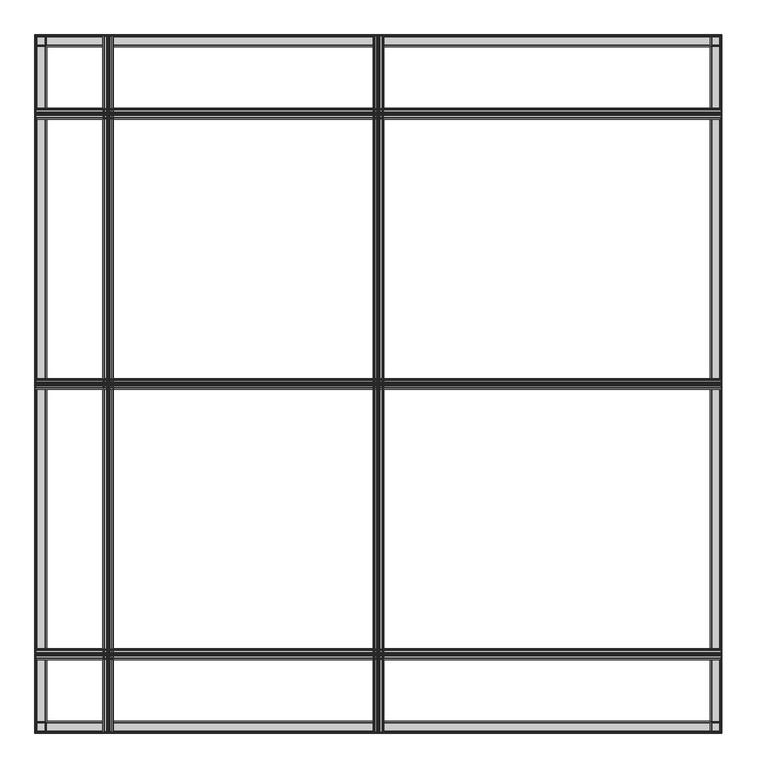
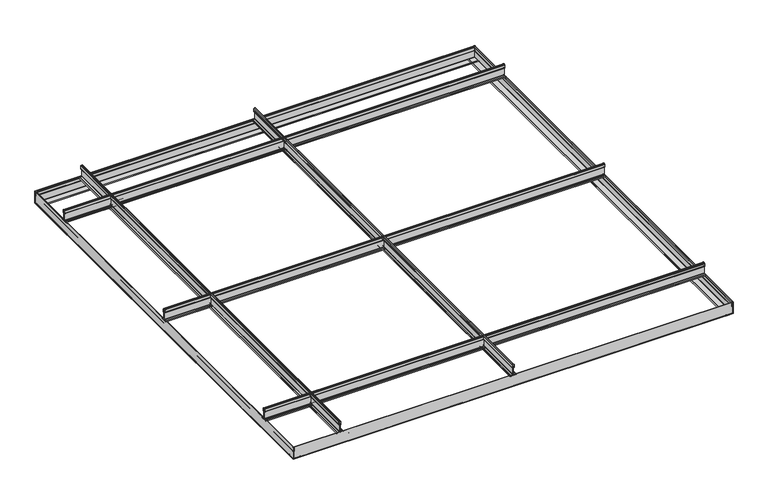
"""IFC4 building model written with IfcOpenShell, lengths in millimetres: proxy geometry, Maxxit_Highland-Ceiling_rev-01 : Maxxit_Highland-Ceiling_Quad."""

from ifc_helpers import new_model, si_unit, point, frame, frame_2d, origin, place, context, project, spatial, polyline, circle_curve, trimmed, segment, composite_curve, outline, extrude, source, transform, mapped, element, save


def generic_models_ea31196a(model_context):
    return source(origin(), model_context, "Body", "SweptSolid", [
        extrude(outline(composite_curve([segment(trimmed(circle_curve(frame_2d((1397.3521622, 27.4883115)), 1.143), [point((1397.3521622, 26.3453115))], [point((1396.2091622, 27.4883115))], False, "CARTESIAN"), True, "CONTINUOUS"), segment(trimmed(circle_curve(frame_2d((1395.0661622, 27.4883115)), 1.143), [point((1396.2091622, 27.4883115))], [point((1395.0661622, 26.3453115))], False, "CARTESIAN"), True, "CONTINUOUS"), segment(polyline([(1395.0661622, 26.3453115), (1385.8632271, 26.0290179), (1385.8632271, 27.0486923), (1394.4595431, 27.0486923)]), True, "CONTINUOUS"), segment(trimmed(circle_curve(frame_2d((1394.4595431, 28.0053766)), 0.9566843), [point((1394.4595431, 27.0486923))], [point((1395.4162274, 28.0053766))], True, "CARTESIAN"), True, "CONTINUOUS"), segment(polyline([(1395.4162274, 28.0053766), (1395.4162274, 53.7436541)]), True, "CONTINUOUS"), segment(trimmed(circle_curve(frame_2d((1394.6835556, 53.6130577)), 0.74422), [point((1395.4162274, 53.7436541))], [point((1394.7271464, 54.356))], True, "CARTESIAN"), True, "CONTINUOUS"), segment(trimmed(circle_curve(frame_2d((1394.4680297, 58.371716)), 4.0240672), [point((1394.7271464, 54.356))], [point((1393.7805705, 54.4068054))], False, "CARTESIAN"), True, "CONTINUOUS"), segment(trimmed(circle_curve(frame_2d((1394.138326, 55.7865501)), 1.4253717), [point((1393.7805705, 54.4068054))], [point((1392.7129543, 55.7865501))], False, "CARTESIAN"), True, "CONTINUOUS"), segment(polyline([(1392.7129543, 55.7865501), (1392.7129543, 64.7585942)]), True, "CONTINUOUS"), segment(trimmed(circle_curve(frame_2d((1394.7630392, 64.8150812)), 2.0508629), [point((1392.7129543, 64.7585942))], [point((1393.3128601, 66.2652603))], False, "CARTESIAN"), True, "CONTINUOUS"), segment(polyline([(1393.3128601, 66.2652603), (1395.2184323, 68.1708325)]), True, "CONTINUOUS"), segment(trimmed(circle_curve(frame_2d((1396.20625, 67.1830148)), 1.3969852), [point((1395.2184323, 68.1708325))], [point((1397.1940677, 68.1708325))], False, "CARTESIAN"), True, "CONTINUOUS"), segment(polyline([(1397.1940677, 68.1708325), (1399.0996399, 66.2652603)]), True, "CONTINUOUS"), segment(trimmed(circle_curve(frame_2d((1397.6494608, 64.8150812)), 2.0508629), [point((1399.0996399, 66.2652603))], [point((1399.6995457, 64.7585942))], False, "CARTESIAN"), True, "CONTINUOUS"), segment(polyline([(1399.6995457, 64.7585942), (1399.6995457, 55.7865501)]), True, "CONTINUOUS"), segment(trimmed(circle_curve(frame_2d((1398.274174, 55.7865501)), 1.4253717), [point((1399.6995457, 55.7865501))], [point((1398.6319295, 54.4068054))], False, "CARTESIAN"), True, "CONTINUOUS"), segment(trimmed(circle_curve(frame_2d((1397.9444703, 58.371716)), 4.0240672), [point((1398.6319295, 54.4068054))], [point((1397.6853536, 54.356))], False, "CARTESIAN"), True, "CONTINUOUS"), segment(trimmed(circle_curve(frame_2d((1397.7289444, 53.6130577)), 0.74422), [point((1397.6853536, 54.356))], [point((1397.002097, 53.7729211))], True, "CARTESIAN"), True, "CONTINUOUS"), segment(polyline([(1397.002097, 53.7729211), (1397.002097, 28.0053766)]), True, "CONTINUOUS"), segment(trimmed(circle_curve(frame_2d((1397.9587813, 28.0053766)), 0.9566843), [point((1397.002097, 28.0053766))], [point((1397.9587813, 27.0486923))], True, "CARTESIAN"), True, "CONTINUOUS"), segment(polyline([(1397.9587813, 27.0486923), (1405.7221882, 27.0486923), (1405.7221882, 26.0364605), (1397.3521622, 26.3453115)]), True, "CONTINUOUS")], self_intersect=False), holes=[composite_curve([segment(trimmed(circle_curve(frame_2d((1397.2758577, 54.058724)), 1.0922), [point((1396.20625, 54.2797221))], [point((1397.2758577, 55.150924))], False, "CARTESIAN"), True, "CONTINUOUS"), segment(polyline([(1397.2758577, 55.150924), (1398.2662785, 55.150924)]), True, "CONTINUOUS"), segment(trimmed(circle_curve(frame_2d((1398.2662785, 55.7859245)), 0.6350005), [point((1398.2662785, 55.150924))], [point((1398.901279, 55.7859245))], True, "CARTESIAN"), True, "CONTINUOUS"), segment(polyline([(1398.901279, 55.7859245), (1398.901279, 64.7585942)]), True, "CONTINUOUS"), segment(trimmed(circle_curve(frame_2d((1397.3984359, 64.7240599)), 1.5032399), [point((1398.901279, 64.7585942))], [point((1398.5383739, 65.7039943))], True, "CARTESIAN"), True, "CONTINUOUS"), segment(polyline([(1398.5383739, 65.7039943), (1396.6328017, 67.6095665)]), True, "CONTINUOUS"), segment(trimmed(circle_curve(frame_2d((1396.20625, 67.1830148)), 0.6032352), [point((1396.6328017, 67.6095665))], [point((1395.7796983, 67.6095665))], True, "CARTESIAN"), True, "CONTINUOUS"), segment(polyline([(1395.7796983, 67.6095665), (1393.8741261, 65.7039943)]), True, "CONTINUOUS"), segment(trimmed(circle_curve(frame_2d((1395.0140641, 64.7240599)), 1.5032399), [point((1393.8741261, 65.7039943))], [point((1393.511221, 64.7585942))], True, "CARTESIAN"), True, "CONTINUOUS"), segment(polyline([(1393.511221, 64.7585942), (1393.511221, 55.7859245)]), True, "CONTINUOUS"), segment(trimmed(circle_curve(frame_2d((1394.1462215, 55.7859245)), 0.6350005), [point((1393.511221, 55.7859245))], [point((1394.1462215, 55.150924))], True, "CARTESIAN"), True, "CONTINUOUS"), segment(polyline([(1394.1462215, 55.150924), (1395.1366423, 55.150924)]), True, "CONTINUOUS"), segment(trimmed(circle_curve(frame_2d((1395.1366423, 54.058724)), 1.0922), [point((1395.1366423, 55.150924))], [point((1396.20625, 54.2797221))], False, "CARTESIAN"), True, "CONTINUOUS")], self_intersect=False)]), frame((0.0, 0.0, 0.0), z_axis=(1.0, 0.0, 0.0), x_axis=(0.0, 1.0, 0.0)), (0.0, 0.0, 1.0), 1549.4),
        extrude(outline(composite_curve([segment(polyline([(1406.6419885, 25.4), (1385.7705115, 25.4)]), True, "CONTINUOUS"), segment(trimmed(circle_curve(frame_2d((1385.7705115, 26.8823557)), 1.4823557), [point((1385.7705115, 25.4))], [point((1386.1415525, 28.3175237))], False, "CARTESIAN"), True, "CONTINUOUS"), segment(polyline([(1386.1415525, 28.3175237), (1387.6677295, 27.887022), (1387.4522387, 27.123083), (1385.9360297, 27.550773)]), True, "CONTINUOUS"), segment(trimmed(circle_curve(frame_2d((1385.7705115, 26.8823557)), 0.6886057), [point((1385.9360297, 27.550773))], [point((1385.7705115, 26.19375))], True, "CARTESIAN"), True, "CONTINUOUS"), segment(polyline([(1385.7705115, 26.19375), (1406.6419885, 26.19375)]), True, "CONTINUOUS"), segment(trimmed(circle_curve(frame_2d((1406.6419885, 26.8823557)), 0.6886057), [point((1406.6419885, 26.19375))], [point((1406.4764703, 27.550773))], True, "CARTESIAN"), True, "CONTINUOUS"), segment(polyline([(1406.4764703, 27.550773), (1404.9602613, 27.123083), (1404.7447705, 27.887022), (1406.2709475, 28.3175237)]), True, "CONTINUOUS"), segment(trimmed(circle_curve(frame_2d((1406.6419885, 26.8823557)), 1.4823557), [point((1406.2709475, 28.3175237))], [point((1406.6419885, 25.4))], False, "CARTESIAN"), True, "CONTINUOUS")], self_intersect=False)), frame((0.0, 0.0, 0.0), z_axis=(1.0, 0.0, 0.0), x_axis=(0.0, 1.0, 0.0)), (0.0, 0.0, 1.0), 1549.4),
        extrude(outline(composite_curve([segment(polyline([(26.3453115, 775.8459122), (26.0364605, 784.2159382), (27.0486923, 784.2159382), (27.0486923, 776.4525313)]), True, "CONTINUOUS"), segment(trimmed(circle_curve(frame_2d((28.0053766, 776.4525313)), 0.9566843), [point((27.0486923, 776.4525313))], [point((28.0053766, 775.495847))], True, "CARTESIAN"), True, "CONTINUOUS"), segment(polyline([(28.0053766, 775.495847), (53.7729211, 775.495847)]), True, "CONTINUOUS"), segment(trimmed(circle_curve(frame_2d((53.6130577, 776.2226944)), 0.74422), [point((53.7729211, 775.495847))], [point((54.356, 776.1791036))], True, "CARTESIAN"), True, "CONTINUOUS"), segment(trimmed(circle_curve(frame_2d((58.371716, 776.4382203)), 4.0240672), [point((54.356, 776.1791036))], [point((54.4068054, 777.1256795))], False, "CARTESIAN"), True, "CONTINUOUS"), segment(trimmed(circle_curve(frame_2d((55.7865501, 776.767924)), 1.4253717), [point((54.4068054, 777.1256795))], [point((55.7865501, 778.1932957))], False, "CARTESIAN"), True, "CONTINUOUS"), segment(polyline([(55.7865501, 778.1932957), (64.7585942, 778.1932957)]), True, "CONTINUOUS"), segment(trimmed(circle_curve(frame_2d((64.8150812, 776.1432108)), 2.0508629), [point((64.7585942, 778.1932957))], [point((66.2652603, 777.5933899))], False, "CARTESIAN"), True, "CONTINUOUS"), segment(polyline([(66.2652603, 777.5933899), (68.1708325, 775.6878177)]), True, "CONTINUOUS"), segment(trimmed(circle_curve(frame_2d((67.1830148, 774.7)), 1.3969852), [point((68.1708325, 775.6878177))], [point((68.1708325, 773.7121823))], False, "CARTESIAN"), True, "CONTINUOUS"), segment(polyline([(68.1708325, 773.7121823), (66.2652603, 771.8066101)]), True, "CONTINUOUS"), segment(trimmed(circle_curve(frame_2d((64.8150812, 773.2567892)), 2.0508629), [point((66.2652603, 771.8066101))], [point((64.7585942, 771.2067043))], False, "CARTESIAN"), True, "CONTINUOUS"), segment(polyline([(64.7585942, 771.2067043), (55.7865501, 771.2067043)]), True, "CONTINUOUS"), segment(trimmed(circle_curve(frame_2d((55.7865501, 772.632076)), 1.4253717), [point((55.7865501, 771.2067043))], [point((54.4068054, 772.2743205))], False, "CARTESIAN"), True, "CONTINUOUS"), segment(trimmed(circle_curve(frame_2d((58.371716, 772.9617797)), 4.0240672), [point((54.4068054, 772.2743205))], [point((54.356, 773.2208964))], False, "CARTESIAN"), True, "CONTINUOUS"), segment(trimmed(circle_curve(frame_2d((53.6130577, 773.1773056)), 0.74422), [point((54.356, 773.2208964))], [point((53.7436541, 773.9099774))], True, "CARTESIAN"), True, "CONTINUOUS"), segment(polyline([(53.7436541, 773.9099774), (28.0053766, 773.9099774)]), True, "CONTINUOUS"), segment(trimmed(circle_curve(frame_2d((28.0053766, 772.9532931)), 0.9566843), [point((28.0053766, 773.9099774))], [point((27.0486923, 772.9532931))], True, "CARTESIAN"), True, "CONTINUOUS"), segment(polyline([(27.0486923, 772.9532931), (27.0486923, 764.3569771), (26.0290179, 764.3569771), (26.3453115, 773.5599122)]), True, "CONTINUOUS"), segment(trimmed(circle_curve(frame_2d((27.4883115, 773.5599122)), 1.143), [point((26.3453115, 773.5599122))], [point((27.4883115, 774.7029122))], False, "CARTESIAN"), True, "CONTINUOUS"), segment(trimmed(circle_curve(frame_2d((27.4883115, 775.8459122)), 1.143), [point((27.4883115, 774.7029122))], [point((26.3453115, 775.8459122))], False, "CARTESIAN"), True, "CONTINUOUS")], self_intersect=False), holes=[composite_curve([segment(trimmed(circle_curve(frame_2d((54.058724, 773.6303923)), 1.0922), [point((54.2797221, 774.7))], [point((55.150924, 773.6303923))], False, "CARTESIAN"), True, "CONTINUOUS"), segment(polyline([(55.150924, 773.6303923), (55.150924, 772.6399715)]), True, "CONTINUOUS"), segment(trimmed(circle_curve(frame_2d((55.7859245, 772.6399715)), 0.6350005), [point((55.150924, 772.6399715))], [point((55.7859245, 772.004971))], True, "CARTESIAN"), True, "CONTINUOUS"), segment(polyline([(55.7859245, 772.004971), (64.7585942, 772.004971)]), True, "CONTINUOUS"), segment(trimmed(circle_curve(frame_2d((64.7240599, 773.5078141)), 1.5032399), [point((64.7585942, 772.004971))], [point((65.7039943, 772.3678761))], True, "CARTESIAN"), True, "CONTINUOUS"), segment(polyline([(65.7039943, 772.3678761), (67.6095665, 774.2734483)]), True, "CONTINUOUS"), segment(trimmed(circle_curve(frame_2d((67.1830148, 774.7)), 0.6032352), [point((67.6095665, 774.2734483))], [point((67.6095665, 775.1265517))], True, "CARTESIAN"), True, "CONTINUOUS"), segment(polyline([(67.6095665, 775.1265517), (65.7039943, 777.0321239)]), True, "CONTINUOUS"), segment(trimmed(circle_curve(frame_2d((64.7240599, 775.8921859)), 1.5032399), [point((65.7039943, 777.0321239))], [point((64.7585942, 777.395029))], True, "CARTESIAN"), True, "CONTINUOUS"), segment(polyline([(64.7585942, 777.395029), (55.7859245, 777.395029)]), True, "CONTINUOUS"), segment(trimmed(circle_curve(frame_2d((55.7859245, 776.7600285)), 0.6350005), [point((55.7859245, 777.395029))], [point((55.150924, 776.7600285))], True, "CARTESIAN"), True, "CONTINUOUS"), segment(polyline([(55.150924, 776.7600285), (55.150924, 775.7696077)]), True, "CONTINUOUS"), segment(trimmed(circle_curve(frame_2d((54.058724, 775.7696077)), 1.0922), [point((55.150924, 775.7696077))], [point((54.2797221, 774.7))], False, "CARTESIAN"), True, "CONTINUOUS")], self_intersect=False)]), frame((0.0, -0.79375, 0.0), z_axis=(0.0, 1.0, 0.0), x_axis=(0.0, 0.0, 1.0)), (0.0, 0.0, 1.0), 1574.8),
        extrude(outline(composite_curve([segment(trimmed(circle_curve(frame_2d((26.8823557, 785.1357385)), 1.4823557), [point((25.4, 785.1357385))], [point((28.3175237, 784.7646975))], False, "CARTESIAN"), True, "CONTINUOUS"), segment(polyline([(28.3175237, 784.7646975), (27.887022, 783.2385205), (27.123083, 783.4540113), (27.550773, 784.9702203)]), True, "CONTINUOUS"), segment(trimmed(circle_curve(frame_2d((26.8823557, 785.1357385)), 0.6886057), [point((27.550773, 784.9702203))], [point((26.19375, 785.1357385))], True, "CARTESIAN"), True, "CONTINUOUS"), segment(polyline([(26.19375, 785.1357385), (26.19375, 764.2642615)]), True, "CONTINUOUS"), segment(trimmed(circle_curve(frame_2d((26.8823557, 764.2642615)), 0.6886057), [point((26.19375, 764.2642615))], [point((27.550773, 764.4297797))], True, "CARTESIAN"), True, "CONTINUOUS"), segment(polyline([(27.550773, 764.4297797), (27.123083, 765.9459887), (27.887022, 766.1614795), (28.3175237, 764.6353025)]), True, "CONTINUOUS"), segment(trimmed(circle_curve(frame_2d((26.8823557, 764.2642615)), 1.4823557), [point((28.3175237, 764.6353025))], [point((25.4, 764.2642615))], False, "CARTESIAN"), True, "CONTINUOUS"), segment(polyline([(25.4, 764.2642615), (25.4, 785.1357385)]), True, "CONTINUOUS")], self_intersect=False)), frame((0.0, -0.79375, 0.0), z_axis=(0.0, 1.0, 0.0), x_axis=(0.0, 0.0, 1.0)), (0.0, 0.0, 1.0), 1574.8),
        extrude(outline(composite_curve([segment(trimmed(circle_curve(frame_2d((787.7521622, 27.4883115)), 1.143), [point((787.7521622, 26.3453115))], [point((786.6091622, 27.4883115))], False, "CARTESIAN"), True, "CONTINUOUS"), segment(trimmed(circle_curve(frame_2d((785.4661622, 27.4883115)), 1.143), [point((786.6091622, 27.4883115))], [point((785.4661622, 26.3453115))], False, "CARTESIAN"), True, "CONTINUOUS"), segment(polyline([(785.4661622, 26.3453115), (776.2632271, 26.0290179), (776.2632271, 27.0486923), (784.8595431, 27.0486923)]), True, "CONTINUOUS"), segment(trimmed(circle_curve(frame_2d((784.8595431, 28.0053766)), 0.9566843), [point((784.8595431, 27.0486923))], [point((785.8162274, 28.0053766))], True, "CARTESIAN"), True, "CONTINUOUS"), segment(polyline([(785.8162274, 28.0053766), (785.8162274, 53.7436541)]), True, "CONTINUOUS"), segment(trimmed(circle_curve(frame_2d((785.0835556, 53.6130577)), 0.74422), [point((785.8162274, 53.7436541))], [point((785.1271464, 54.356))], True, "CARTESIAN"), True, "CONTINUOUS"), segment(trimmed(circle_curve(frame_2d((784.8680297, 58.371716)), 4.0240672), [point((785.1271464, 54.356))], [point((784.1805705, 54.4068054))], False, "CARTESIAN"), True, "CONTINUOUS"), segment(trimmed(circle_curve(frame_2d((784.538326, 55.7865501)), 1.4253717), [point((784.1805705, 54.4068054))], [point((783.1129543, 55.7865501))], False, "CARTESIAN"), True, "CONTINUOUS"), segment(polyline([(783.1129543, 55.7865501), (783.1129543, 64.7585942)]), True, "CONTINUOUS"), segment(trimmed(circle_curve(frame_2d((785.1630392, 64.8150812)), 2.0508629), [point((783.1129543, 64.7585942))], [point((783.7128601, 66.2652603))], False, "CARTESIAN"), True, "CONTINUOUS"), segment(polyline([(783.7128601, 66.2652603), (785.6184323, 68.1708325)]), True, "CONTINUOUS"), segment(trimmed(circle_curve(frame_2d((786.60625, 67.1830148)), 1.3969852), [point((785.6184323, 68.1708325))], [point((787.5940677, 68.1708325))], False, "CARTESIAN"), True, "CONTINUOUS"), segment(polyline([(787.5940677, 68.1708325), (789.4996399, 66.2652603)]), True, "CONTINUOUS"), segment(trimmed(circle_curve(frame_2d((788.0494608, 64.8150812)), 2.0508629), [point((789.4996399, 66.2652603))], [point((790.0995457, 64.7585942))], False, "CARTESIAN"), True, "CONTINUOUS"), segment(polyline([(790.0995457, 64.7585942), (790.0995457, 55.7865501)]), True, "CONTINUOUS"), segment(trimmed(circle_curve(frame_2d((788.674174, 55.7865501)), 1.4253717), [point((790.0995457, 55.7865501))], [point((789.0319295, 54.4068054))], False, "CARTESIAN"), True, "CONTINUOUS"), segment(trimmed(circle_curve(frame_2d((788.3444703, 58.371716)), 4.0240672), [point((789.0319295, 54.4068054))], [point((788.0853536, 54.356))], False, "CARTESIAN"), True, "CONTINUOUS"), segment(trimmed(circle_curve(frame_2d((788.1289444, 53.6130577)), 0.74422), [point((788.0853536, 54.356))], [point((787.402097, 53.7729211))], True, "CARTESIAN"), True, "CONTINUOUS"), segment(polyline([(787.402097, 53.7729211), (787.402097, 28.0053766)]), True, "CONTINUOUS"), segment(trimmed(circle_curve(frame_2d((788.3587813, 28.0053766)), 0.9566843), [point((787.402097, 28.0053766))], [point((788.3587813, 27.0486923))], True, "CARTESIAN"), True, "CONTINUOUS"), segment(polyline([(788.3587813, 27.0486923), (796.1221882, 27.0486923), (796.1221882, 26.0364605), (787.7521622, 26.3453115)]), True, "CONTINUOUS")], self_intersect=False), holes=[composite_curve([segment(trimmed(circle_curve(frame_2d((787.6758577, 54.058724)), 1.0922), [point((786.60625, 54.2797221))], [point((787.6758577, 55.150924))], False, "CARTESIAN"), True, "CONTINUOUS"), segment(polyline([(787.6758577, 55.150924), (788.6662785, 55.150924)]), True, "CONTINUOUS"), segment(trimmed(circle_curve(frame_2d((788.6662785, 55.7859245)), 0.6350005), [point((788.6662785, 55.150924))], [point((789.301279, 55.7859245))], True, "CARTESIAN"), True, "CONTINUOUS"), segment(polyline([(789.301279, 55.7859245), (789.301279, 64.7585942)]), True, "CONTINUOUS"), segment(trimmed(circle_curve(frame_2d((787.7984359, 64.7240599)), 1.5032399), [point((789.301279, 64.7585942))], [point((788.9383739, 65.7039943))], True, "CARTESIAN"), True, "CONTINUOUS"), segment(polyline([(788.9383739, 65.7039943), (787.0328017, 67.6095665)]), True, "CONTINUOUS"), segment(trimmed(circle_curve(frame_2d((786.60625, 67.1830148)), 0.6032352), [point((787.0328017, 67.6095665))], [point((786.1796983, 67.6095665))], True, "CARTESIAN"), True, "CONTINUOUS"), segment(polyline([(786.1796983, 67.6095665), (784.2741261, 65.7039943)]), True, "CONTINUOUS"), segment(trimmed(circle_curve(frame_2d((785.4140641, 64.7240599)), 1.5032399), [point((784.2741261, 65.7039943))], [point((783.911221, 64.7585942))], True, "CARTESIAN"), True, "CONTINUOUS"), segment(polyline([(783.911221, 64.7585942), (783.911221, 55.7859245)]), True, "CONTINUOUS"), segment(trimmed(circle_curve(frame_2d((784.5462215, 55.7859245)), 0.6350005), [point((783.911221, 55.7859245))], [point((784.5462215, 55.150924))], True, "CARTESIAN"), True, "CONTINUOUS"), segment(polyline([(784.5462215, 55.150924), (785.5366423, 55.150924)]), True, "CONTINUOUS"), segment(trimmed(circle_curve(frame_2d((785.5366423, 54.058724)), 1.0922), [point((785.5366423, 55.150924))], [point((786.60625, 54.2797221))], False, "CARTESIAN"), True, "CONTINUOUS")], self_intersect=False)]), frame((0.0, 0.0, 0.0), z_axis=(1.0, 0.0, 0.0), x_axis=(0.0, 1.0, 0.0)), (0.0, 0.0, 1.0), 1549.4),
        extrude(outline(composite_curve([segment(polyline([(797.0419885, 25.4), (776.1705115, 25.4)]), True, "CONTINUOUS"), segment(trimmed(circle_curve(frame_2d((776.1705115, 26.8823557)), 1.4823557), [point((776.1705115, 25.4))], [point((776.5415525, 28.3175237))], False, "CARTESIAN"), True, "CONTINUOUS"), segment(polyline([(776.5415525, 28.3175237), (778.0677295, 27.887022), (777.8522387, 27.123083), (776.3360297, 27.550773)]), True, "CONTINUOUS"), segment(trimmed(circle_curve(frame_2d((776.1705115, 26.8823557)), 0.6886057), [point((776.3360297, 27.550773))], [point((776.1705115, 26.19375))], True, "CARTESIAN"), True, "CONTINUOUS"), segment(polyline([(776.1705115, 26.19375), (797.0419885, 26.19375)]), True, "CONTINUOUS"), segment(trimmed(circle_curve(frame_2d((797.0419885, 26.8823557)), 0.6886057), [point((797.0419885, 26.19375))], [point((796.8764703, 27.550773))], True, "CARTESIAN"), True, "CONTINUOUS"), segment(polyline([(796.8764703, 27.550773), (795.3602613, 27.123083), (795.1447705, 27.887022), (796.6709475, 28.3175237)]), True, "CONTINUOUS"), segment(trimmed(circle_curve(frame_2d((797.0419885, 26.8823557)), 1.4823557), [point((796.6709475, 28.3175237))], [point((797.0419885, 25.4))], False, "CARTESIAN"), True, "CONTINUOUS")], self_intersect=False)), frame((0.0, 0.0, 0.0), z_axis=(1.0, 0.0, 0.0), x_axis=(0.0, 1.0, 0.0)), (0.0, 0.0, 1.0), 1549.4),
        extrude(outline(composite_curve([segment(trimmed(circle_curve(frame_2d((178.1521622, 27.4883115)), 1.143), [point((178.1521622, 26.3453115))], [point((177.0091622, 27.4883115))], False, "CARTESIAN"), True, "CONTINUOUS"), segment(trimmed(circle_curve(frame_2d((175.8661622, 27.4883115)), 1.143), [point((177.0091622, 27.4883115))], [point((175.8661622, 26.3453115))], False, "CARTESIAN"), True, "CONTINUOUS"), segment(polyline([(175.8661622, 26.3453115), (166.6632271, 26.0290179), (166.6632271, 27.0486923), (175.2595431, 27.0486923)]), True, "CONTINUOUS"), segment(trimmed(circle_curve(frame_2d((175.2595431, 28.0053766)), 0.9566843), [point((175.2595431, 27.0486923))], [point((176.2162274, 28.0053766))], True, "CARTESIAN"), True, "CONTINUOUS"), segment(polyline([(176.2162274, 28.0053766), (176.2162274, 53.7436541)]), True, "CONTINUOUS"), segment(trimmed(circle_curve(frame_2d((175.4835556, 53.6130577)), 0.74422), [point((176.2162274, 53.7436541))], [point((175.5271464, 54.356))], True, "CARTESIAN"), True, "CONTINUOUS"), segment(trimmed(circle_curve(frame_2d((175.2680297, 58.371716)), 4.0240672), [point((175.5271464, 54.356))], [point((174.5805705, 54.4068054))], False, "CARTESIAN"), True, "CONTINUOUS"), segment(trimmed(circle_curve(frame_2d((174.938326, 55.7865501)), 1.4253717), [point((174.5805705, 54.4068054))], [point((173.5129543, 55.7865501))], False, "CARTESIAN"), True, "CONTINUOUS"), segment(polyline([(173.5129543, 55.7865501), (173.5129543, 64.7585942)]), True, "CONTINUOUS"), segment(trimmed(circle_curve(frame_2d((175.5630392, 64.8150812)), 2.0508629), [point((173.5129543, 64.7585942))], [point((174.1128601, 66.2652603))], False, "CARTESIAN"), True, "CONTINUOUS"), segment(polyline([(174.1128601, 66.2652603), (176.0184323, 68.1708325)]), True, "CONTINUOUS"), segment(trimmed(circle_curve(frame_2d((177.00625, 67.1830148)), 1.3969852), [point((176.0184323, 68.1708325))], [point((177.9940677, 68.1708325))], False, "CARTESIAN"), True, "CONTINUOUS"), segment(polyline([(177.9940677, 68.1708325), (179.8996399, 66.2652603)]), True, "CONTINUOUS"), segment(trimmed(circle_curve(frame_2d((178.4494608, 64.8150812)), 2.0508629), [point((179.8996399, 66.2652603))], [point((180.4995457, 64.7585942))], False, "CARTESIAN"), True, "CONTINUOUS"), segment(polyline([(180.4995457, 64.7585942), (180.4995457, 55.7865501)]), True, "CONTINUOUS"), segment(trimmed(circle_curve(frame_2d((179.074174, 55.7865501)), 1.4253717), [point((180.4995457, 55.7865501))], [point((179.4319295, 54.4068054))], False, "CARTESIAN"), True, "CONTINUOUS"), segment(trimmed(circle_curve(frame_2d((178.7444703, 58.371716)), 4.0240672), [point((179.4319295, 54.4068054))], [point((178.4853536, 54.356))], False, "CARTESIAN"), True, "CONTINUOUS"), segment(trimmed(circle_curve(frame_2d((178.5289444, 53.6130577)), 0.74422), [point((178.4853536, 54.356))], [point((177.802097, 53.7729211))], True, "CARTESIAN"), True, "CONTINUOUS"), segment(polyline([(177.802097, 53.7729211), (177.802097, 28.0053766)]), True, "CONTINUOUS"), segment(trimmed(circle_curve(frame_2d((178.7587813, 28.0053766)), 0.9566843), [point((177.802097, 28.0053766))], [point((178.7587813, 27.0486923))], True, "CARTESIAN"), True, "CONTINUOUS"), segment(polyline([(178.7587813, 27.0486923), (186.5221882, 27.0486923), (186.5221882, 26.0364605), (178.1521622, 26.3453115)]), True, "CONTINUOUS")], self_intersect=False), holes=[composite_curve([segment(trimmed(circle_curve(frame_2d((178.0758577, 54.058724)), 1.0922), [point((177.00625, 54.2797221))], [point((178.0758577, 55.150924))], False, "CARTESIAN"), True, "CONTINUOUS"), segment(polyline([(178.0758577, 55.150924), (179.0662785, 55.150924)]), True, "CONTINUOUS"), segment(trimmed(circle_curve(frame_2d((179.0662785, 55.7859245)), 0.6350005), [point((179.0662785, 55.150924))], [point((179.701279, 55.7859245))], True, "CARTESIAN"), True, "CONTINUOUS"), segment(polyline([(179.701279, 55.7859245), (179.701279, 64.7585942)]), True, "CONTINUOUS"), segment(trimmed(circle_curve(frame_2d((178.1984359, 64.7240599)), 1.5032399), [point((179.701279, 64.7585942))], [point((179.3383739, 65.7039943))], True, "CARTESIAN"), True, "CONTINUOUS"), segment(polyline([(179.3383739, 65.7039943), (177.4328017, 67.6095665)]), True, "CONTINUOUS"), segment(trimmed(circle_curve(frame_2d((177.00625, 67.1830148)), 0.6032352), [point((177.4328017, 67.6095665))], [point((176.5796983, 67.6095665))], True, "CARTESIAN"), True, "CONTINUOUS"), segment(polyline([(176.5796983, 67.6095665), (174.6741261, 65.7039943)]), True, "CONTINUOUS"), segment(trimmed(circle_curve(frame_2d((175.8140641, 64.7240599)), 1.5032399), [point((174.6741261, 65.7039943))], [point((174.311221, 64.7585942))], True, "CARTESIAN"), True, "CONTINUOUS"), segment(polyline([(174.311221, 64.7585942), (174.311221, 55.7859245)]), True, "CONTINUOUS"), segment(trimmed(circle_curve(frame_2d((174.9462215, 55.7859245)), 0.6350005), [point((174.311221, 55.7859245))], [point((174.9462215, 55.150924))], True, "CARTESIAN"), True, "CONTINUOUS"), segment(polyline([(174.9462215, 55.150924), (175.9366423, 55.150924)]), True, "CONTINUOUS"), segment(trimmed(circle_curve(frame_2d((175.9366423, 54.058724)), 1.0922), [point((175.9366423, 55.150924))], [point((177.00625, 54.2797221))], False, "CARTESIAN"), True, "CONTINUOUS")], self_intersect=False)]), frame((0.0, 0.0, 0.0), z_axis=(1.0, 0.0, 0.0), x_axis=(0.0, 1.0, 0.0)), (0.0, 0.0, 1.0), 1549.4),
        extrude(outline(composite_curve([segment(polyline([(187.4419885, 25.4), (166.5705115, 25.4)]), True, "CONTINUOUS"), segment(trimmed(circle_curve(frame_2d((166.5705115, 26.8823557)), 1.4823557), [point((166.5705115, 25.4))], [point((166.9415525, 28.3175237))], False, "CARTESIAN"), True, "CONTINUOUS"), segment(polyline([(166.9415525, 28.3175237), (168.4677295, 27.887022), (168.2522387, 27.123083), (166.7360297, 27.550773)]), True, "CONTINUOUS"), segment(trimmed(circle_curve(frame_2d((166.5705115, 26.8823557)), 0.6886057), [point((166.7360297, 27.550773))], [point((166.5705115, 26.19375))], True, "CARTESIAN"), True, "CONTINUOUS"), segment(polyline([(166.5705115, 26.19375), (187.4419885, 26.19375)]), True, "CONTINUOUS"), segment(trimmed(circle_curve(frame_2d((187.4419885, 26.8823557)), 0.6886057), [point((187.4419885, 26.19375))], [point((187.2764703, 27.550773))], True, "CARTESIAN"), True, "CONTINUOUS"), segment(polyline([(187.2764703, 27.550773), (185.7602613, 27.123083), (185.5447705, 27.887022), (187.0709475, 28.3175237)]), True, "CONTINUOUS"), segment(trimmed(circle_curve(frame_2d((187.4419885, 26.8823557)), 1.4823557), [point((187.0709475, 28.3175237))], [point((187.4419885, 25.4))], False, "CARTESIAN"), True, "CONTINUOUS")], self_intersect=False)), frame((0.0, 0.0, 0.0), z_axis=(1.0, 0.0, 0.0), x_axis=(0.0, 1.0, 0.0)), (0.0, 0.0, 1.0), 1549.4),
        extrude(outline(composite_curve([segment(polyline([(-14.9820313, 1549.3700026), (-14.1882813, 1549.3700026), (-14.1882813, 1524.6746645)]), True, "CONTINUOUS"), segment(trimmed(circle_curve(frame_2d((-13.4996755, 1524.6746645)), 0.6886057), [point((-14.1882813, 1524.6746645))], [point((-12.8312583, 1524.8401827))], True, "CARTESIAN"), True, "CONTINUOUS"), segment(polyline([(-12.8312583, 1524.8401827), (-13.2589482, 1526.3563917), (-12.4950092, 1526.5718825), (-12.0645075, 1525.0457055)]), True, "CONTINUOUS"), segment(trimmed(circle_curve(frame_2d((-13.4996755, 1524.6746645)), 1.4823557), [point((-12.0645075, 1525.0457055))], [point((-14.9820313, 1524.6746645))], False, "CARTESIAN"), True, "CONTINUOUS"), segment(polyline([(-14.9820313, 1524.6746645), (-14.9820313, 1549.3700026)]), True, "CONTINUOUS")], self_intersect=False)), frame((0.0, -0.79375, 0.0), z_axis=(0.0, 1.0, 0.0), x_axis=(0.0, 0.0, 1.0)), (0.0, 0.0, 1.0), 1574.8),
        extrude(outline(composite_curve([segment(trimmed(circle_curve(frame_2d((26.9918874, 1548.604153)), 1.3969852), [point((28.1400142, 1549.4))], [point((27.9797051, 1547.6163353))], False, "CARTESIAN"), True, "CONTINUOUS"), segment(polyline([(27.9797051, 1547.6163353), (26.0741329, 1545.7107631)]), True, "CONTINUOUS"), segment(trimmed(circle_curve(frame_2d((24.6239538, 1547.1609422)), 2.0508629), [point((26.0741329, 1545.7107631))], [point((24.5674668, 1545.1108573))], False, "CARTESIAN"), True, "CONTINUOUS"), segment(polyline([(24.5674668, 1545.1108573), (14.4241684, 1545.1108573)]), True, "CONTINUOUS"), segment(trimmed(circle_curve(frame_2d((14.4241684, 1546.536229)), 1.4253717), [point((14.4241684, 1545.1108573))], [point((13.0444237, 1546.1784735))], False, "CARTESIAN"), True, "CONTINUOUS"), segment(trimmed(circle_curve(frame_2d((17.0093343, 1546.8659327)), 4.0240672), [point((13.0444237, 1546.1784735))], [point((12.9936183, 1547.1250494))], False, "CARTESIAN"), True, "CONTINUOUS"), segment(trimmed(circle_curve(frame_2d((12.250676, 1547.0814586)), 0.74422), [point((12.9936183, 1547.1250494))], [point((12.3812724, 1547.8141304))], True, "CARTESIAN"), True, "CONTINUOUS"), segment(polyline([(12.3812724, 1547.8141304), (-12.3766547, 1547.8141304)]), True, "CONTINUOUS"), segment(trimmed(circle_curve(frame_2d((-12.3766547, 1546.8574461)), 0.9566843), [point((-12.3766547, 1547.8141304))], [point((-13.333339, 1546.8574461))], True, "CARTESIAN"), True, "CONTINUOUS"), segment(polyline([(-13.333339, 1546.8574461), (-13.333339, 1524.7673801), (-14.3530133, 1524.7673801), (-14.0306827, 1548.1396787)]), True, "CONTINUOUS"), segment(trimmed(circle_curve(frame_2d((-12.8937197, 1548.257)), 1.143), [point((-14.0306827, 1548.1396787))], [point((-12.8937197, 1549.4))], False, "CARTESIAN"), True, "CONTINUOUS"), segment(polyline([(-12.8937197, 1549.4), (28.1400142, 1549.4)]), True, "CONTINUOUS")], self_intersect=False), holes=[composite_curve([segment(trimmed(circle_curve(frame_2d((14.4235428, 1547.9667328)), 0.6350005), [point((14.4235428, 1548.6017333))], [point((13.7885423, 1547.9667328))], True, "CARTESIAN"), True, "CONTINUOUS"), segment(polyline([(13.7885423, 1547.9667328), (13.7885423, 1546.5441244)]), True, "CONTINUOUS"), segment(trimmed(circle_curve(frame_2d((14.4235428, 1546.5441244)), 0.6350005), [point((13.7885423, 1546.5441244))], [point((14.4235428, 1545.909124))], True, "CARTESIAN"), True, "CONTINUOUS"), segment(polyline([(14.4235428, 1545.909124), (24.5674668, 1545.909124)]), True, "CONTINUOUS"), segment(trimmed(circle_curve(frame_2d((24.5329325, 1547.4119671)), 1.5032399), [point((24.5674668, 1545.909124))], [point((25.5128669, 1546.2720291))], True, "CARTESIAN"), True, "CONTINUOUS"), segment(polyline([(25.5128669, 1546.2720291), (27.8425711, 1548.6017333), (14.4235428, 1548.6017333)]), True, "CONTINUOUS")], self_intersect=False)]), frame((0.0, -0.79375, 0.0), z_axis=(0.0, 1.0, 0.0), x_axis=(0.0, 0.0, 1.0)), (0.0, 0.0, 1.0), 1574.8),
        extrude(outline(composite_curve([segment(polyline([(1573.9762526, -14.9820313), (1549.2809145, -14.9820313)]), True, "CONTINUOUS"), segment(trimmed(circle_curve(frame_2d((1549.2809145, -13.4996755)), 1.4823557), [point((1549.2809145, -14.9820313))], [point((1549.6519555, -12.0645075))], False, "CARTESIAN"), True, "CONTINUOUS"), segment(polyline([(1549.6519555, -12.0645075), (1551.1781325, -12.4950092), (1550.9626417, -13.2589482), (1549.4464327, -12.8312583)]), True, "CONTINUOUS"), segment(trimmed(circle_curve(frame_2d((1549.2809145, -13.4996755)), 0.6886057), [point((1549.4464327, -12.8312583))], [point((1549.2809145, -14.1882813))], True, "CARTESIAN"), True, "CONTINUOUS"), segment(polyline([(1549.2809145, -14.1882813), (1573.9762526, -14.1882813), (1573.9762526, -14.9820313)]), True, "CONTINUOUS")], self_intersect=False)), frame((0.0, 0.0, 0.0), z_axis=(1.0, 0.0, 0.0), x_axis=(0.0, 1.0, 0.0)), (0.0, 0.0, 1.0), 1549.4),
        extrude(outline(composite_curve([segment(polyline([(1574.00625, 28.1400142), (1574.00625, -12.8937197)]), True, "CONTINUOUS"), segment(trimmed(circle_curve(frame_2d((1572.86325, -12.8937197)), 1.143), [point((1574.00625, -12.8937197))], [point((1572.7459287, -14.0306827))], False, "CARTESIAN"), True, "CONTINUOUS"), segment(polyline([(1572.7459287, -14.0306827), (1549.3736301, -14.3530133), (1549.3736301, -13.333339), (1571.4636961, -13.333339)]), True, "CONTINUOUS"), segment(trimmed(circle_curve(frame_2d((1571.4636961, -12.3766547)), 0.9566843), [point((1571.4636961, -13.333339))], [point((1572.4203804, -12.3766547))], True, "CARTESIAN"), True, "CONTINUOUS"), segment(polyline([(1572.4203804, -12.3766547), (1572.4203804, 12.3812724)]), True, "CONTINUOUS"), segment(trimmed(circle_curve(frame_2d((1571.6877086, 12.250676)), 0.74422), [point((1572.4203804, 12.3812724))], [point((1571.7312994, 12.9936183))], True, "CARTESIAN"), True, "CONTINUOUS"), segment(trimmed(circle_curve(frame_2d((1571.4721827, 17.0093343)), 4.0240672), [point((1571.7312994, 12.9936183))], [point((1570.7847235, 13.0444237))], False, "CARTESIAN"), True, "CONTINUOUS"), segment(trimmed(circle_curve(frame_2d((1571.142479, 14.4241684)), 1.4253717), [point((1570.7847235, 13.0444237))], [point((1569.7171073, 14.4241684))], False, "CARTESIAN"), True, "CONTINUOUS"), segment(polyline([(1569.7171073, 14.4241684), (1569.7171073, 24.5674668)]), True, "CONTINUOUS"), segment(trimmed(circle_curve(frame_2d((1571.7671922, 24.6239538)), 2.0508629), [point((1569.7171073, 24.5674668))], [point((1570.3170131, 26.0741329))], False, "CARTESIAN"), True, "CONTINUOUS"), segment(polyline([(1570.3170131, 26.0741329), (1572.2225853, 27.9797051)]), True, "CONTINUOUS"), segment(trimmed(circle_curve(frame_2d((1573.210403, 26.9918874)), 1.3969852), [point((1572.2225853, 27.9797051))], [point((1574.00625, 28.1400142))], False, "CARTESIAN"), True, "CONTINUOUS")], self_intersect=False), holes=[composite_curve([segment(polyline([(1573.2079833, 14.4235428), (1573.2079833, 27.8425711), (1570.8782791, 25.5128669)]), True, "CONTINUOUS"), segment(trimmed(circle_curve(frame_2d((1572.0182171, 24.5329325)), 1.5032399), [point((1570.8782791, 25.5128669))], [point((1570.515374, 24.5674668))], True, "CARTESIAN"), True, "CONTINUOUS"), segment(polyline([(1570.515374, 24.5674668), (1570.515374, 14.4235428)]), True, "CONTINUOUS"), segment(trimmed(circle_curve(frame_2d((1571.1503744, 14.4235428)), 0.6350005), [point((1570.515374, 14.4235428))], [point((1571.1503744, 13.7885423))], True, "CARTESIAN"), True, "CONTINUOUS"), segment(polyline([(1571.1503744, 13.7885423), (1572.5729828, 13.7885423)]), True, "CONTINUOUS"), segment(trimmed(circle_curve(frame_2d((1572.5729828, 14.4235428)), 0.6350005), [point((1572.5729828, 13.7885423))], [point((1573.2079833, 14.4235428))], True, "CARTESIAN"), True, "CONTINUOUS")], self_intersect=False)]), frame((0.0, 0.0, 0.0), z_axis=(1.0, 0.0, 0.0), x_axis=(0.0, 1.0, 0.0)), (0.0, 0.0, 1.0), 1549.4),
        extrude(outline(composite_curve([segment(polyline([(-14.9820313, 0.0299974), (-14.9820313, 24.7253355)]), True, "CONTINUOUS"), segment(trimmed(circle_curve(frame_2d((-13.4996755, 24.7253355)), 1.4823557), [point((-14.9820313, 24.7253355))], [point((-12.0645075, 24.3542945))], False, "CARTESIAN"), True, "CONTINUOUS"), segment(polyline([(-12.0645075, 24.3542945), (-12.4950092, 22.8281175), (-13.2589482, 23.0436083), (-12.8312583, 24.5598173)]), True, "CONTINUOUS"), segment(trimmed(circle_curve(frame_2d((-13.4996755, 24.7253355)), 0.6886057), [point((-12.8312583, 24.5598173))], [point((-14.1882813, 24.7253355))], True, "CARTESIAN"), True, "CONTINUOUS"), segment(polyline([(-14.1882813, 24.7253355), (-14.1882813, 0.0299974), (-14.9820313, 0.0299974)]), True, "CONTINUOUS")], self_intersect=False)), frame((0.0, -0.79375, 0.0), z_axis=(0.0, 1.0, 0.0), x_axis=(0.0, 0.0, 1.0)), (0.0, 0.0, 1.0), 1574.8),
        extrude(outline(composite_curve([segment(polyline([(28.1400142, 0.0), (-12.8937197, 0.0)]), True, "CONTINUOUS"), segment(trimmed(circle_curve(frame_2d((-12.8937197, 1.143)), 1.143), [point((-12.8937197, 0.0))], [point((-14.0306827, 1.2603213))], False, "CARTESIAN"), True, "CONTINUOUS"), segment(polyline([(-14.0306827, 1.2603213), (-14.3530133, 24.6326199), (-13.333339, 24.6326199), (-13.333339, 2.5425539)]), True, "CONTINUOUS"), segment(trimmed(circle_curve(frame_2d((-12.3766547, 2.5425539)), 0.9566843), [point((-13.333339, 2.5425539))], [point((-12.3766547, 1.5858696))], True, "CARTESIAN"), True, "CONTINUOUS"), segment(polyline([(-12.3766547, 1.5858696), (12.3812724, 1.5858696)]), True, "CONTINUOUS"), segment(trimmed(circle_curve(frame_2d((12.250676, 2.3185414)), 0.74422), [point((12.3812724, 1.5858696))], [point((12.9936183, 2.2749506))], True, "CARTESIAN"), True, "CONTINUOUS"), segment(trimmed(circle_curve(frame_2d((17.0093343, 2.5340673)), 4.0240672), [point((12.9936183, 2.2749506))], [point((13.0444237, 3.2215265))], False, "CARTESIAN"), True, "CONTINUOUS"), segment(trimmed(circle_curve(frame_2d((14.4241684, 2.863771)), 1.4253717), [point((13.0444237, 3.2215265))], [point((14.4241684, 4.2891427))], False, "CARTESIAN"), True, "CONTINUOUS"), segment(polyline([(14.4241684, 4.2891427), (24.5674668, 4.2891427)]), True, "CONTINUOUS"), segment(trimmed(circle_curve(frame_2d((24.6239538, 2.2390578)), 2.0508629), [point((24.5674668, 4.2891427))], [point((26.0741329, 3.6892369))], False, "CARTESIAN"), True, "CONTINUOUS"), segment(polyline([(26.0741329, 3.6892369), (27.9797051, 1.7836647)]), True, "CONTINUOUS"), segment(trimmed(circle_curve(frame_2d((26.9918874, 0.795847)), 1.3969852), [point((27.9797051, 1.7836647))], [point((28.1400142, 0.0))], False, "CARTESIAN"), True, "CONTINUOUS")], self_intersect=False), holes=[composite_curve([segment(polyline([(14.4235428, 0.7982667), (27.8425711, 0.7982667), (25.5128669, 3.1279709)]), True, "CONTINUOUS"), segment(trimmed(circle_curve(frame_2d((24.5329325, 1.9880329)), 1.5032399), [point((25.5128669, 3.1279709))], [point((24.5674668, 3.490876))], True, "CARTESIAN"), True, "CONTINUOUS"), segment(polyline([(24.5674668, 3.490876), (14.4235428, 3.490876)]), True, "CONTINUOUS"), segment(trimmed(circle_curve(frame_2d((14.4235428, 2.8558756)), 0.6350005), [point((14.4235428, 3.490876))], [point((13.7885423, 2.8558756))], True, "CARTESIAN"), True, "CONTINUOUS"), segment(polyline([(13.7885423, 2.8558756), (13.7885423, 1.4332672)]), True, "CONTINUOUS"), segment(trimmed(circle_curve(frame_2d((14.4235428, 1.4332672)), 0.6350005), [point((13.7885423, 1.4332672))], [point((14.4235428, 0.7982667))], True, "CARTESIAN"), True, "CONTINUOUS")], self_intersect=False)]), frame((0.0, -0.79375, 0.0), z_axis=(0.0, 1.0, 0.0), x_axis=(0.0, 0.0, 1.0)), (0.0, 0.0, 1.0), 1574.8),
        extrude(outline(composite_curve([segment(polyline([(-0.7637526, -14.9820313), (-0.7637526, -14.1882813), (23.9315855, -14.1882813)]), True, "CONTINUOUS"), segment(trimmed(circle_curve(frame_2d((23.9315855, -13.4996755)), 0.6886057), [point((23.9315855, -14.1882813))], [point((23.7660673, -12.8312583))], True, "CARTESIAN"), True, "CONTINUOUS"), segment(polyline([(23.7660673, -12.8312583), (22.2498583, -13.2589482), (22.0343675, -12.4950092), (23.5605445, -12.0645075)]), True, "CONTINUOUS"), segment(trimmed(circle_curve(frame_2d((23.9315855, -13.4996755)), 1.4823557), [point((23.5605445, -12.0645075))], [point((23.9315855, -14.9820313))], False, "CARTESIAN"), True, "CONTINUOUS"), segment(polyline([(23.9315855, -14.9820313), (-0.7637526, -14.9820313)]), True, "CONTINUOUS")], self_intersect=False)), frame((0.0, 0.0, 0.0), z_axis=(1.0, 0.0, 0.0), x_axis=(0.0, 1.0, 0.0)), (0.0, 0.0, 1.0), 1549.4),
        extrude(outline(composite_curve([segment(trimmed(circle_curve(frame_2d((0.002097, 26.9918874)), 1.3969852), [point((-0.79375, 28.1400142))], [point((0.9899147, 27.9797051))], False, "CARTESIAN"), True, "CONTINUOUS"), segment(polyline([(0.9899147, 27.9797051), (2.8954869, 26.0741329)]), True, "CONTINUOUS"), segment(trimmed(circle_curve(frame_2d((1.4453078, 24.6239538)), 2.0508629), [point((2.8954869, 26.0741329))], [point((3.4953927, 24.5674668))], False, "CARTESIAN"), True, "CONTINUOUS"), segment(polyline([(3.4953927, 24.5674668), (3.4953927, 14.4241684)]), True, "CONTINUOUS"), segment(trimmed(circle_curve(frame_2d((2.070021, 14.4241684)), 1.4253717), [point((3.4953927, 14.4241684))], [point((2.4277765, 13.0444237))], False, "CARTESIAN"), True, "CONTINUOUS"), segment(trimmed(circle_curve(frame_2d((1.7403173, 17.0093343)), 4.0240672), [point((2.4277765, 13.0444237))], [point((1.4812006, 12.9936183))], False, "CARTESIAN"), True, "CONTINUOUS"), segment(trimmed(circle_curve(frame_2d((1.5247914, 12.250676)), 0.74422), [point((1.4812006, 12.9936183))], [point((0.7921196, 12.3812724))], True, "CARTESIAN"), True, "CONTINUOUS"), segment(polyline([(0.7921196, 12.3812724), (0.7921196, -12.3766547)]), True, "CONTINUOUS"), segment(trimmed(circle_curve(frame_2d((1.7488039, -12.3766547)), 0.9566843), [point((0.7921196, -12.3766547))], [point((1.7488039, -13.333339))], True, "CARTESIAN"), True, "CONTINUOUS"), segment(polyline([(1.7488039, -13.333339), (23.8388699, -13.333339), (23.8388699, -14.3530133), (0.4665713, -14.0306827)]), True, "CONTINUOUS"), segment(trimmed(circle_curve(frame_2d((0.34925, -12.8937197)), 1.143), [point((0.4665713, -14.0306827))], [point((-0.79375, -12.8937197))], False, "CARTESIAN"), True, "CONTINUOUS"), segment(polyline([(-0.79375, -12.8937197), (-0.79375, 28.1400142)]), True, "CONTINUOUS")], self_intersect=False), holes=[composite_curve([segment(trimmed(circle_curve(frame_2d((0.6395172, 14.4235428)), 0.6350005), [point((0.0045167, 14.4235428))], [point((0.6395172, 13.7885423))], True, "CARTESIAN"), True, "CONTINUOUS"), segment(polyline([(0.6395172, 13.7885423), (2.0621256, 13.7885423)]), True, "CONTINUOUS"), segment(trimmed(circle_curve(frame_2d((2.0621256, 14.4235428)), 0.6350005), [point((2.0621256, 13.7885423))], [point((2.697126, 14.4235428))], True, "CARTESIAN"), True, "CONTINUOUS"), segment(polyline([(2.697126, 14.4235428), (2.697126, 24.5674668)]), True, "CONTINUOUS"), segment(trimmed(circle_curve(frame_2d((1.1942829, 24.5329325)), 1.5032399), [point((2.697126, 24.5674668))], [point((2.3342209, 25.5128669))], True, "CARTESIAN"), True, "CONTINUOUS"), segment(polyline([(2.3342209, 25.5128669), (0.0045167, 27.8425711), (0.0045167, 14.4235428)]), True, "CONTINUOUS")], self_intersect=False)]), frame((0.0, 0.0, 0.0), z_axis=(1.0, 0.0, 0.0), x_axis=(0.0, 1.0, 0.0)), (0.0, 0.0, 1.0), 1549.4),
        extrude(outline(composite_curve([segment(polyline([(26.3453115, 166.2459122), (26.0364605, 174.6159382), (27.0486923, 174.6159382), (27.0486923, 166.8525313)]), True, "CONTINUOUS"), segment(trimmed(circle_curve(frame_2d((28.0053766, 166.8525313)), 0.9566843), [point((27.0486923, 166.8525313))], [point((28.0053766, 165.895847))], True, "CARTESIAN"), True, "CONTINUOUS"), segment(polyline([(28.0053766, 165.895847), (53.7729211, 165.895847)]), True, "CONTINUOUS"), segment(trimmed(circle_curve(frame_2d((53.6130577, 166.6226944)), 0.74422), [point((53.7729211, 165.895847))], [point((54.356, 166.5791036))], True, "CARTESIAN"), True, "CONTINUOUS"), segment(trimmed(circle_curve(frame_2d((58.371716, 166.8382203)), 4.0240672), [point((54.356, 166.5791036))], [point((54.4068054, 167.5256795))], False, "CARTESIAN"), True, "CONTINUOUS"), segment(trimmed(circle_curve(frame_2d((55.7865501, 167.167924)), 1.4253717), [point((54.4068054, 167.5256795))], [point((55.7865501, 168.5932957))], False, "CARTESIAN"), True, "CONTINUOUS"), segment(polyline([(55.7865501, 168.5932957), (64.7585942, 168.5932957)]), True, "CONTINUOUS"), segment(trimmed(circle_curve(frame_2d((64.8150812, 166.5432108)), 2.0508629), [point((64.7585942, 168.5932957))], [point((66.2652603, 167.9933899))], False, "CARTESIAN"), True, "CONTINUOUS"), segment(polyline([(66.2652603, 167.9933899), (68.1708325, 166.0878177)]), True, "CONTINUOUS"), segment(trimmed(circle_curve(frame_2d((67.1830148, 165.1)), 1.3969852), [point((68.1708325, 166.0878177))], [point((68.1708325, 164.1121823))], False, "CARTESIAN"), True, "CONTINUOUS"), segment(polyline([(68.1708325, 164.1121823), (66.2652603, 162.2066101)]), True, "CONTINUOUS"), segment(trimmed(circle_curve(frame_2d((64.8150812, 163.6567892)), 2.0508629), [point((66.2652603, 162.2066101))], [point((64.7585942, 161.6067043))], False, "CARTESIAN"), True, "CONTINUOUS"), segment(polyline([(64.7585942, 161.6067043), (55.7865501, 161.6067043)]), True, "CONTINUOUS"), segment(trimmed(circle_curve(frame_2d((55.7865501, 163.032076)), 1.4253717), [point((55.7865501, 161.6067043))], [point((54.4068054, 162.6743205))], False, "CARTESIAN"), True, "CONTINUOUS"), segment(trimmed(circle_curve(frame_2d((58.371716, 163.3617797)), 4.0240672), [point((54.4068054, 162.6743205))], [point((54.356, 163.6208964))], False, "CARTESIAN"), True, "CONTINUOUS"), segment(trimmed(circle_curve(frame_2d((53.6130577, 163.5773056)), 0.74422), [point((54.356, 163.6208964))], [point((53.7436541, 164.3099774))], True, "CARTESIAN"), True, "CONTINUOUS"), segment(polyline([(53.7436541, 164.3099774), (28.0053766, 164.3099774)]), True, "CONTINUOUS"), segment(trimmed(circle_curve(frame_2d((28.0053766, 163.3532931)), 0.9566843), [point((28.0053766, 164.3099774))], [point((27.0486923, 163.3532931))], True, "CARTESIAN"), True, "CONTINUOUS"), segment(polyline([(27.0486923, 163.3532931), (27.0486923, 154.7569771), (26.0290179, 154.7569771), (26.3453115, 163.9599122)]), True, "CONTINUOUS"), segment(trimmed(circle_curve(frame_2d((27.4883115, 163.9599122)), 1.143), [point((26.3453115, 163.9599122))], [point((27.4883115, 165.1029122))], False, "CARTESIAN"), True, "CONTINUOUS"), segment(trimmed(circle_curve(frame_2d((27.4883115, 166.2459122)), 1.143), [point((27.4883115, 165.1029122))], [point((26.3453115, 166.2459122))], False, "CARTESIAN"), True, "CONTINUOUS")], self_intersect=False), holes=[composite_curve([segment(trimmed(circle_curve(frame_2d((54.058724, 164.0303923)), 1.0922), [point((54.2797221, 165.1))], [point((55.150924, 164.0303923))], False, "CARTESIAN"), True, "CONTINUOUS"), segment(polyline([(55.150924, 164.0303923), (55.150924, 163.0399715)]), True, "CONTINUOUS"), segment(trimmed(circle_curve(frame_2d((55.7859245, 163.0399715)), 0.6350005), [point((55.150924, 163.0399715))], [point((55.7859245, 162.404971))], True, "CARTESIAN"), True, "CONTINUOUS"), segment(polyline([(55.7859245, 162.404971), (64.7585942, 162.404971)]), True, "CONTINUOUS"), segment(trimmed(circle_curve(frame_2d((64.7240599, 163.9078141)), 1.5032399), [point((64.7585942, 162.404971))], [point((65.7039943, 162.7678761))], True, "CARTESIAN"), True, "CONTINUOUS"), segment(polyline([(65.7039943, 162.7678761), (67.6095665, 164.6734483)]), True, "CONTINUOUS"), segment(trimmed(circle_curve(frame_2d((67.1830148, 165.1)), 0.6032352), [point((67.6095665, 164.6734483))], [point((67.6095665, 165.5265517))], True, "CARTESIAN"), True, "CONTINUOUS"), segment(polyline([(67.6095665, 165.5265517), (65.7039943, 167.4321239)]), True, "CONTINUOUS"), segment(trimmed(circle_curve(frame_2d((64.7240599, 166.2921859)), 1.5032399), [point((65.7039943, 167.4321239))], [point((64.7585942, 167.795029))], True, "CARTESIAN"), True, "CONTINUOUS"), segment(polyline([(64.7585942, 167.795029), (55.7859245, 167.795029)]), True, "CONTINUOUS"), segment(trimmed(circle_curve(frame_2d((55.7859245, 167.1600285)), 0.6350005), [point((55.7859245, 167.795029))], [point((55.150924, 167.1600285))], True, "CARTESIAN"), True, "CONTINUOUS"), segment(polyline([(55.150924, 167.1600285), (55.150924, 166.1696077)]), True, "CONTINUOUS"), segment(trimmed(circle_curve(frame_2d((54.058724, 166.1696077)), 1.0922), [point((55.150924, 166.1696077))], [point((54.2797221, 165.1))], False, "CARTESIAN"), True, "CONTINUOUS")], self_intersect=False)]), frame((0.0, -0.79375, 0.0), z_axis=(0.0, 1.0, 0.0), x_axis=(0.0, 0.0, 1.0)), (0.0, 0.0, 1.0), 1574.8),
        extrude(outline(composite_curve([segment(trimmed(circle_curve(frame_2d((26.8823557, 175.5357385)), 1.4823557), [point((25.4, 175.5357385))], [point((28.3175237, 175.1646975))], False, "CARTESIAN"), True, "CONTINUOUS"), segment(polyline([(28.3175237, 175.1646975), (27.887022, 173.6385205), (27.123083, 173.8540113), (27.550773, 175.3702203)]), True, "CONTINUOUS"), segment(trimmed(circle_curve(frame_2d((26.8823557, 175.5357385)), 0.6886057), [point((27.550773, 175.3702203))], [point((26.19375, 175.5357385))], True, "CARTESIAN"), True, "CONTINUOUS"), segment(polyline([(26.19375, 175.5357385), (26.19375, 154.6642615)]), True, "CONTINUOUS"), segment(trimmed(circle_curve(frame_2d((26.8823557, 154.6642615)), 0.6886057), [point((26.19375, 154.6642615))], [point((27.550773, 154.8297797))], True, "CARTESIAN"), True, "CONTINUOUS"), segment(polyline([(27.550773, 154.8297797), (27.123083, 156.3459887), (27.887022, 156.5614795), (28.3175237, 155.0353025)]), True, "CONTINUOUS"), segment(trimmed(circle_curve(frame_2d((26.8823557, 154.6642615)), 1.4823557), [point((28.3175237, 155.0353025))], [point((25.4, 154.6642615))], False, "CARTESIAN"), True, "CONTINUOUS"), segment(polyline([(25.4, 154.6642615), (25.4, 175.5357385)]), True, "CONTINUOUS")], self_intersect=False)), frame((0.0, -0.79375, 0.0), z_axis=(0.0, 1.0, 0.0), x_axis=(0.0, 0.0, 1.0)), (0.0, 0.0, 1.0), 1574.8),
    ])


if __name__ == "__main__":
    model = new_model("IFC4")
    model_context = context("Model", 3, world=origin())
    ifc_project = project(units=[si_unit("LENGTHUNIT", "METRE", prefix="MILLI")], contexts=[model_context])
    site = spatial("IfcSite", under=ifc_project)
    building = spatial("IfcBuilding", under=site)
    placement = place(None, origin())
    generic_models_shape = generic_models_ea31196a(model_context)
    element("IfcBuildingElementProxy", 1, Name="Maxxit_Highland-Ceiling_rev-01 : Maxxit_Highland-Ceiling_Quad", ObjectType="Maxxit_Highland-Ceiling_rev-01 : Maxxit_Highland-Ceiling_Quad", at=placement, inside=building, context=model_context, shape_type="MappedRepresentation", body=[
        mapped(generic_models_shape, transform((0.0, 0.0, 0.0), x_axis=(1.0, 0.0, 0.0), y_axis=(0.0, 1.0, 0.0), z_axis=(0.0, 0.0, 1.0))),
    ])
    save(model, "model.ifc")
